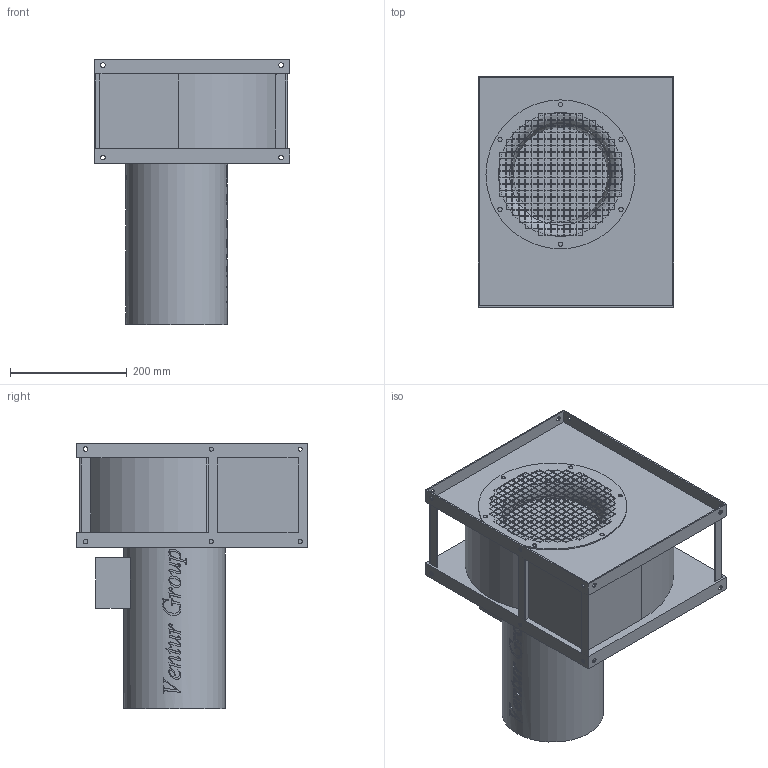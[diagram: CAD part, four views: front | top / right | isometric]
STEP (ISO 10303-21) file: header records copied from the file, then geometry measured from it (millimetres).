
FILE_DESCRIPTION(/* description */ (''),/* implementation_level */ '2;1');
FILE_NAME(/* name */ 'E:\Mariusz\Modele uproszczone\LFB\LFB_2_200_74 435011010\LFB_2_200_74 435011010\LFB_2_200_74 435011010.stp',/* time_stamp */ '2018-07-04T16:39:46+02:00',/* author */ ('M.Janczarek'),/* organization */ (''),/* preprocessor_version */ 'ST-DEVELOPER v16.5',/* originating_system */ 'Autodesk Inventor 2017',/* authorisation */ '');
FILE_SCHEMA (('AUTOMOTIVE_DESIGN { 1 0 10303 214 3 1 1 }'));
Products named in the file (1): LFB_2_200_74 435011010
Bounding box: 335 x 394 x 454 mm (x, y, z)
Volume: 20422590.6 mm3; surface area: 917482.4 mm2
Topology: 1 solids, 1 shells, 1787 faces, 5255 edges, 3484 vertices
Faces by surface type: plane 1338, bspline 364, cylinder 83, torus 2
Full cylindrical faces by diameter (mm): 7 x4, 7.1 x6, 8 x14, 161.301 x1, 173.6 x1, 255 x1
Entity records: 67297 total; most frequent: CARTESIAN_POINT 19381, ORIENTED_EDGE 10428, DIRECTION 7697, EDGE_CURVE 5214, LINE 4307, VECTOR 4307, VERTEX_POINT 3473, EDGE_LOOP 2457
